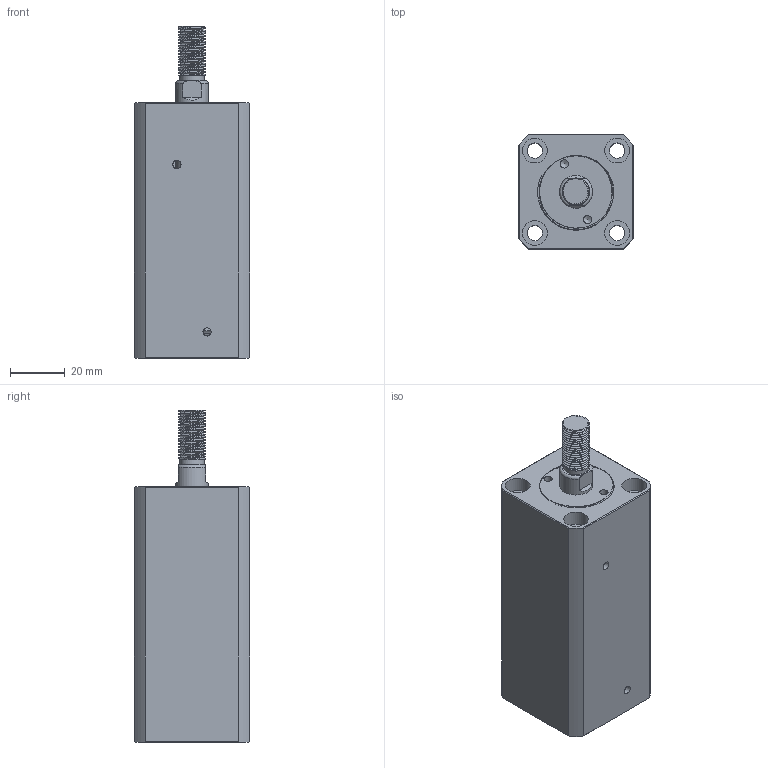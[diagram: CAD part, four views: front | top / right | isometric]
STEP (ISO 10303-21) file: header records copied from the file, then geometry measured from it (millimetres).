
FILE_DESCRIPTION(/* description */ (''),/* implementation_level */ '2;1');
FILE_NAME(/* name */ 'CHTB-sdmb20x50w.stp',/* time_stamp */ '2022-04-29T15:58:05+08:00',/* author */ (''),/* organization */ (''),/* preprocessor_version */ 'ST-DEVELOPER v16.7',/* originating_system */ 'SIEMENS PLM Software NX 12.0',/* authorisation */ '');
FILE_SCHEMA (('AUTOMOTIVE_DESIGN { 1 0 10303 214 3 1 1 1 }'));
Length unit declared in the file: millimetre
Products named in the file (1): CHTB-sdmb20x50w
Bounding box: 42 x 42 x 121 mm (x, y, z)
Volume: 140636.1 mm3; surface area: 41853 mm2
Topology: 3 solids, 3 shells, 513 faces, 1467 edges, 1006 vertices
Faces by surface type: plane 319, extrusion 109, cylinder 51, torus 18, bspline 13, cone 3
Full cylindrical faces by diameter (mm): 2.5 x2, 3 x4, 5.6 x4, 8 x2, 9 x9, 12 x2, 16 x2, 18 x1, 20 x5, 26.5 x9
Entity records: 27292 total; most frequent: CARTESIAN_POINT 12397, ORIENTED_EDGE 2752, DIRECTION 1959, EDGE_CURVE 1376, VECTOR 997, VERTEX_POINT 982, LINE 888, EDGE_LOOP 624
